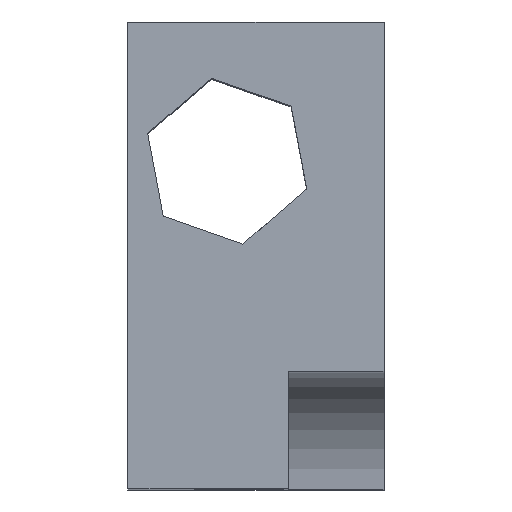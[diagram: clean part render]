
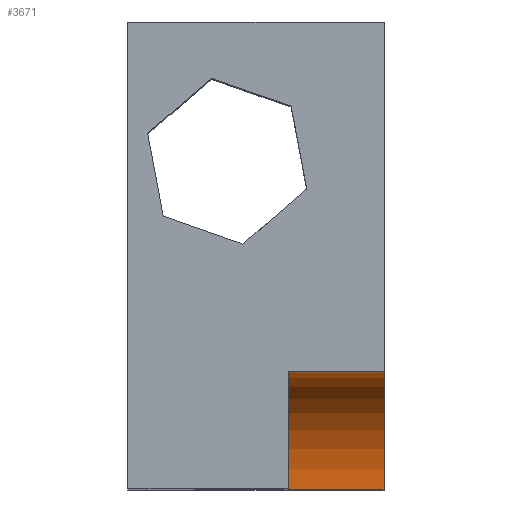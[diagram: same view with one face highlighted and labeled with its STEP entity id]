
A CAD part, top view. The second image highlights one B-rep face of the part: STEP entity #3671.
In plain terms, the highlighted cylindrical face has radius 8.336 mm (diameter 16.672 mm), a partial arc.
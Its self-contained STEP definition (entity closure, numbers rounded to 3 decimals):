
#44 = PLANE('',#45);
#45 = AXIS2_PLACEMENT_3D('',#46,#47,#48);
#46 = CARTESIAN_POINT('',(0.,0.,0.));
#47 = DIRECTION('',(-0.,1.,0.));
#48 = DIRECTION('',(0.,0.,1.));
#126 = PLANE('',#127);
#127 = AXIS2_PLACEMENT_3D('',#128,#129,#130);
#128 = CARTESIAN_POINT('',(0.,0.,44.171));
#129 = DIRECTION('',(0.,0.,1.));
#130 = DIRECTION('',(1.,0.,-0.));
#780 = VERTEX_POINT('',#781);
#781 = CARTESIAN_POINT('',(18.121,0.,
    35.835));
#795 = PLANE('',#796);
#796 = AXIS2_PLACEMENT_3D('',#797,#798,#799);
#797 = CARTESIAN_POINT('',(18.121,0.,0.));
#798 = DIRECTION('',(1.,0.,-0.));
#799 = DIRECTION('',(0.,0.,1.));
#853 = VERTEX_POINT('',#854);
#854 = CARTESIAN_POINT('',(11.329,0.,
    35.835));
#868 = PLANE('',#869);
#869 = AXIS2_PLACEMENT_3D('',#870,#871,#872);
#870 = CARTESIAN_POINT('',(11.329,3.439,40.731
    ));
#871 = DIRECTION('',(1.,0.,0.));
#872 = DIRECTION('',(0.,0.,1.));
#880 = EDGE_CURVE('',#780,#853,#881,.T.);
#881 = SURFACE_CURVE('',#882,(#886,#893),.PCURVE_S1.);
#882 = LINE('',#883,#884);
#883 = CARTESIAN_POINT('',(18.121,0.,
    35.835));
#884 = VECTOR('',#885,1.);
#885 = DIRECTION('',(-1.,-0.,0.));
#886 = PCURVE('',#44,#887);
#887 = DEFINITIONAL_REPRESENTATION('',(#888),#892);
#888 = LINE('',#889,#890);
#889 = CARTESIAN_POINT('',(35.835,18.121));
#890 = VECTOR('',#891,1.);
#891 = DIRECTION('',(0.,-1.));
#892 = ( GEOMETRIC_REPRESENTATION_CONTEXT(2) 
PARAMETRIC_REPRESENTATION_CONTEXT() REPRESENTATION_CONTEXT('2D SPACE',''
  ) );
#893 = PCURVE('',#894,#899);
#894 = CYLINDRICAL_SURFACE('',#895,8.336);
#895 = AXIS2_PLACEMENT_3D('',#896,#897,#898);
#896 = CARTESIAN_POINT('',(18.121,0.,44.171));
#897 = DIRECTION('',(1.,0.,0.));
#898 = DIRECTION('',(-0.,0.,1.));
#899 = DEFINITIONAL_REPRESENTATION('',(#900),#904);
#900 = LINE('',#901,#902);
#901 = CARTESIAN_POINT('',(3.142,0.));
#902 = VECTOR('',#903,1.);
#903 = DIRECTION('',(0.,-1.));
#904 = ( GEOMETRIC_REPRESENTATION_CONTEXT(2) 
PARAMETRIC_REPRESENTATION_CONTEXT() REPRESENTATION_CONTEXT('2D SPACE',''
  ) );
#1041 = VERTEX_POINT('',#1042);
#1042 = CARTESIAN_POINT('',(11.329,8.336,
    44.171));
#1063 = EDGE_CURVE('',#1064,#1041,#1066,.T.);
#1064 = VERTEX_POINT('',#1065);
#1065 = CARTESIAN_POINT('',(18.121,8.336,
    44.171));
#1066 = SURFACE_CURVE('',#1067,(#1071,#1078),.PCURVE_S1.);
#1067 = LINE('',#1068,#1069);
#1068 = CARTESIAN_POINT('',(18.121,8.336,
    44.171));
#1069 = VECTOR('',#1070,1.);
#1070 = DIRECTION('',(-1.,-0.,0.));
#1071 = PCURVE('',#126,#1072);
#1072 = DEFINITIONAL_REPRESENTATION('',(#1073),#1077);
#1073 = LINE('',#1074,#1075);
#1074 = CARTESIAN_POINT('',(18.121,8.336));
#1075 = VECTOR('',#1076,1.);
#1076 = DIRECTION('',(-1.,0.));
#1077 = ( GEOMETRIC_REPRESENTATION_CONTEXT(2) 
PARAMETRIC_REPRESENTATION_CONTEXT() REPRESENTATION_CONTEXT('2D SPACE',''
  ) );
#1078 = PCURVE('',#894,#1079);
#1079 = DEFINITIONAL_REPRESENTATION('',(#1080),#1084);
#1080 = LINE('',#1081,#1082);
#1081 = CARTESIAN_POINT('',(4.712,0.));
#1082 = VECTOR('',#1083,1.);
#1083 = DIRECTION('',(0.,-1.));
#1084 = ( GEOMETRIC_REPRESENTATION_CONTEXT(2) 
PARAMETRIC_REPRESENTATION_CONTEXT() REPRESENTATION_CONTEXT('2D SPACE',''
  ) );
#3468 = EDGE_CURVE('',#780,#1064,#3469,.T.);
#3469 = SURFACE_CURVE('',#3470,(#3475,#3482),.PCURVE_S1.);
#3470 = CIRCLE('',#3471,8.336);
#3471 = AXIS2_PLACEMENT_3D('',#3472,#3473,#3474);
#3472 = CARTESIAN_POINT('',(18.121,0.,44.171));
#3473 = DIRECTION('',(1.,0.,0.));
#3474 = DIRECTION('',(-0.,0.,1.));
#3475 = PCURVE('',#795,#3476);
#3476 = DEFINITIONAL_REPRESENTATION('',(#3477),#3481);
#3477 = CIRCLE('',#3478,8.336);
#3478 = AXIS2_PLACEMENT_2D('',#3479,#3480);
#3479 = CARTESIAN_POINT('',(44.171,0.));
#3480 = DIRECTION('',(1.,0.));
#3481 = ( GEOMETRIC_REPRESENTATION_CONTEXT(2) 
PARAMETRIC_REPRESENTATION_CONTEXT() REPRESENTATION_CONTEXT('2D SPACE',''
  ) );
#3482 = PCURVE('',#894,#3483);
#3483 = DEFINITIONAL_REPRESENTATION('',(#3484),#3488);
#3484 = LINE('',#3485,#3486);
#3485 = CARTESIAN_POINT('',(0.,0.));
#3486 = VECTOR('',#3487,1.);
#3487 = DIRECTION('',(1.,0.));
#3488 = ( GEOMETRIC_REPRESENTATION_CONTEXT(2) 
PARAMETRIC_REPRESENTATION_CONTEXT() REPRESENTATION_CONTEXT('2D SPACE',''
  ) );
#3671 = ADVANCED_FACE('f030',(#3672),#894,.F.);
#3672 = FACE_BOUND('',#3673,.F.);
#3673 = EDGE_LOOP('',(#3674,#3675,#3697,#3698));
#3674 = ORIENTED_EDGE('',*,*,#880,.T.);
#3675 = ORIENTED_EDGE('',*,*,#3676,.T.);
#3676 = EDGE_CURVE('',#853,#1041,#3677,.T.);
#3677 = SURFACE_CURVE('',#3678,(#3683,#3690),.PCURVE_S1.);
#3678 = CIRCLE('',#3679,8.336);
#3679 = AXIS2_PLACEMENT_3D('',#3680,#3681,#3682);
#3680 = CARTESIAN_POINT('',(11.329,0.,44.171));
#3681 = DIRECTION('',(1.,0.,0.));
#3682 = DIRECTION('',(-0.,0.,1.));
#3683 = PCURVE('',#894,#3684);
#3684 = DEFINITIONAL_REPRESENTATION('',(#3685),#3689);
#3685 = LINE('',#3686,#3687);
#3686 = CARTESIAN_POINT('',(0.,-6.792));
#3687 = VECTOR('',#3688,1.);
#3688 = DIRECTION('',(1.,0.));
#3689 = ( GEOMETRIC_REPRESENTATION_CONTEXT(2) 
PARAMETRIC_REPRESENTATION_CONTEXT() REPRESENTATION_CONTEXT('2D SPACE',''
  ) );
#3690 = PCURVE('',#868,#3691);
#3691 = DEFINITIONAL_REPRESENTATION('',(#3692),#3696);
#3692 = CIRCLE('',#3693,8.336);
#3693 = AXIS2_PLACEMENT_2D('',#3694,#3695);
#3694 = CARTESIAN_POINT('',(3.439,3.439));
#3695 = DIRECTION('',(1.,0.));
#3696 = ( GEOMETRIC_REPRESENTATION_CONTEXT(2) 
PARAMETRIC_REPRESENTATION_CONTEXT() REPRESENTATION_CONTEXT('2D SPACE',''
  ) );
#3697 = ORIENTED_EDGE('',*,*,#1063,.F.);
#3698 = ORIENTED_EDGE('',*,*,#3468,.F.);
